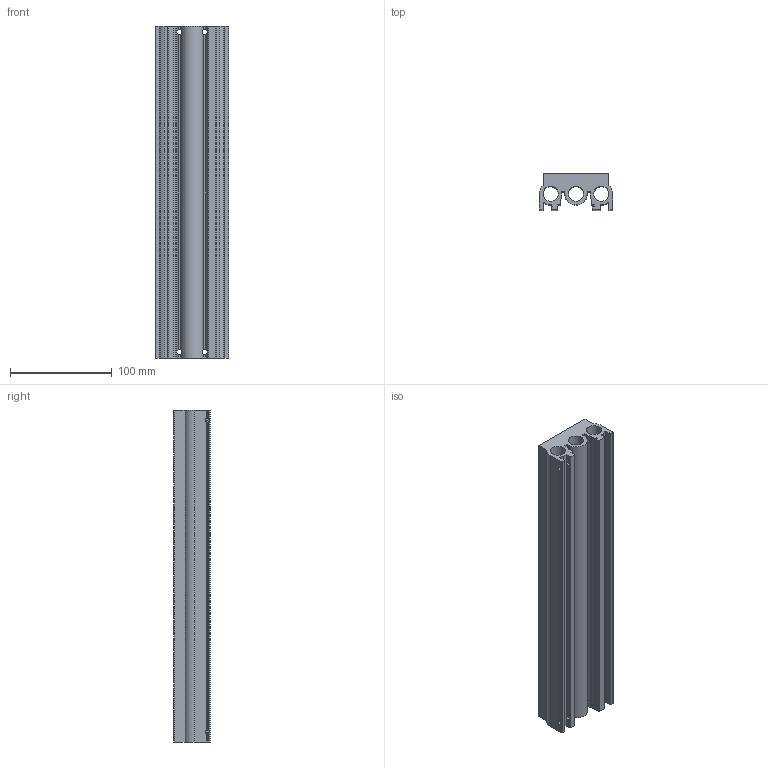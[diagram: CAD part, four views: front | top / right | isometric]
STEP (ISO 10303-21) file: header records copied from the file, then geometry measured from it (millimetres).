
FILE_DESCRIPTION(/* description */ ('COLLETTORE G1/4" 10 POSTI (TECNO-ECO)'),/* implementation_level */ '2;1');
FILE_NAME(/* name */ 'I:\Area Tecnica\Disegni\VARIE-3D\Componenti\T400\T424\T424_##\T424_10.stp',/* time_stamp */ '2015-09-23T13:41:18+02:00',/* author */ ('maniean1'),/* organization */ (''),/* preprocessor_version */ 'ST-DEVELOPER v15.2',/* originating_system */ 'Autodesk Inventor 2014',/* authorisation */ '');
FILE_SCHEMA (('AUTOMOTIVE_DESIGN { 1 0 10303 214 3 1 1 }'));
Length unit declared in the file: millimetre
Products named in the file (1): T424_10
Bounding box: 72 x 36 x 327 mm (x, y, z)
Volume: 465462.7 mm3; surface area: 155790.2 mm2
Topology: 1 solids, 1 shells, 297 faces, 689 edges, 448 vertices
Faces by surface type: cylinder 144, plane 123, cone 30
Full cylindrical faces by diameter (mm): 4 x34, 5.25 x4, 8 x30, 9 x4, 14.9 x3, 16.8 x30
Entity records: 9246 total; most frequent: CARTESIAN_POINT 2692, DIRECTION 1384, ORIENTED_EDGE 1092, AXIS2_PLACEMENT_3D 596, EDGE_LOOP 568, EDGE_CURVE 546, VERTEX_POINT 440, ADVANCED_FACE 297
